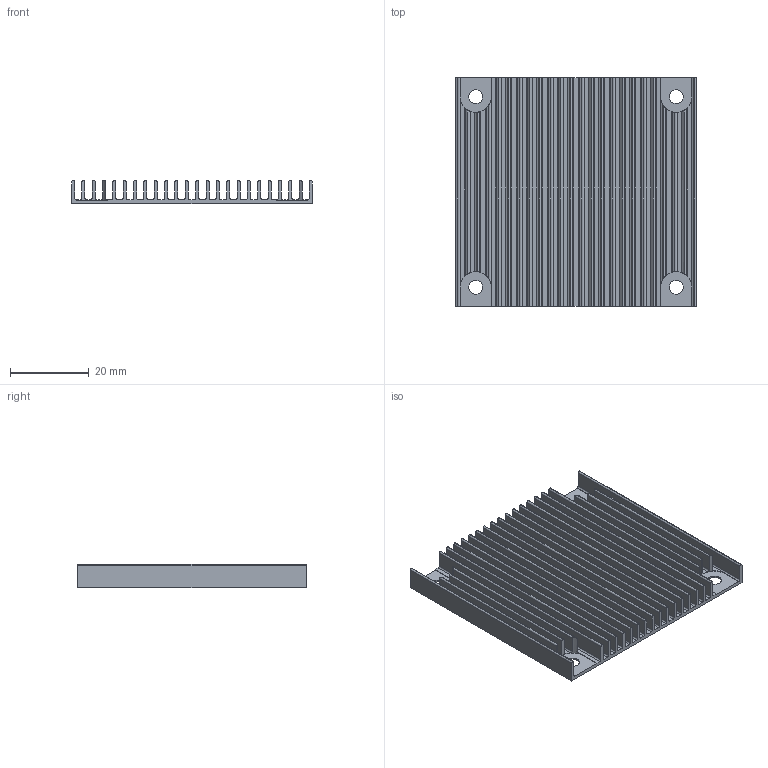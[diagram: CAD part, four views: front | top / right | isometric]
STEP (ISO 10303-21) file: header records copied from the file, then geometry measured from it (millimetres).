
FILE_DESCRIPTION (( 'STEP AP214' ), '1' );
FILE_NAME ('HS1579E_G.STEP', '2023-03-03T18:58:22', ( '' ), ( '' ), 'SwSTEP 2.0', 'SolidWorks 2020', '' );
FILE_SCHEMA (( 'AUTOMOTIVE_DESIGN' ));
Length unit declared in the file: inch
Products named in the file (1): HS1579E_G
Bounding box: 60.96 x 57.91 x 5.84 mm (x, y, z)
Volume: 8199.7 mm3; surface area: 19145 mm2
Topology: 1 solids, 1 shells, 204 faces, 594 edges, 396 vertices
Faces by surface type: cylinder 114, plane 90
Entity records: 7377 total; most frequent: CARTESIAN_POINT 1830, ORIENTED_EDGE 1188, DIRECTION 1144, EDGE_CURVE 594, AXIS2_PLACEMENT_3D 397, VERTEX_POINT 396, LINE 350, VECTOR 350
